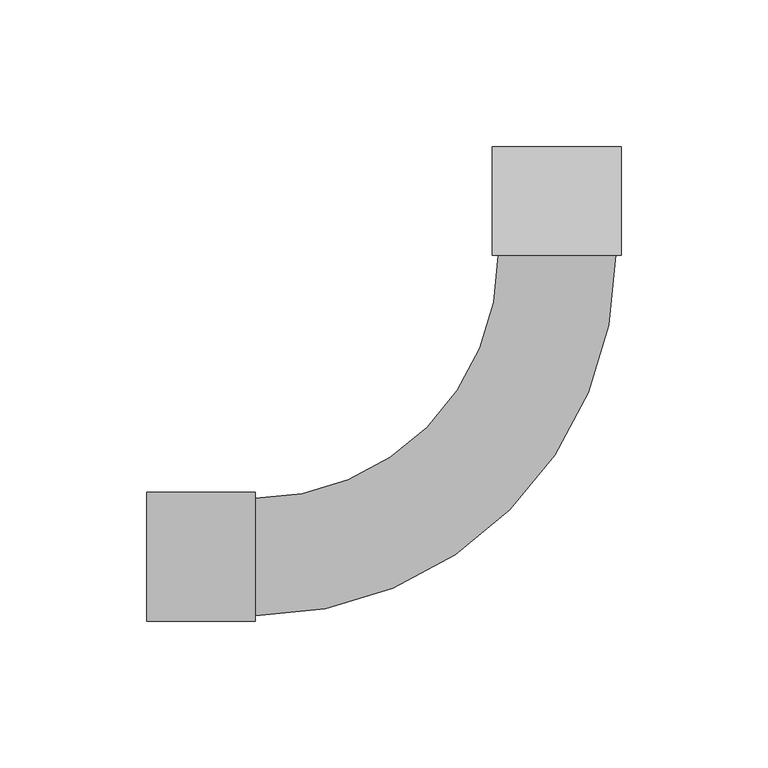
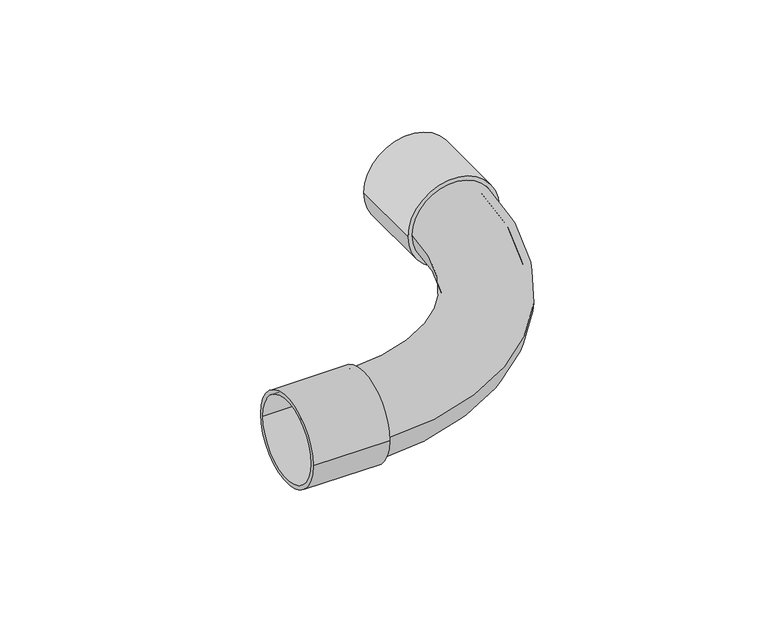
"""IFC4 building model written with IfcOpenShell, lengths in millimetres: cable carrier fitting geometry, КНС_ПоворотНа90ГрадусовТрубаТруба_IP40_DKC : Коробка."""

from ifc_helpers import new_model, si_unit, point, frame, origin, origin_2d, place, context, project, spatial, circle_curve, ellipse_curve, trimmed, segment, composite_curve, outline, extrude, source, transform, mapped, element, save
from ifc_brep_helpers import plane_surface, revolved_surface, advanced_brep


def cable_carrier_fitting_32bc2b01(model_context):
    return source(origin(), model_context, "Body", "SolidModel", [
        advanced_brep(
        [(-103.0, -20.0, 0.0), (-103.0, 20.0, 0.0), (-103.0, -16.5, 0.0), (-103.0, 16.5, 0.0), (20.0, 103.0, 0.0), (-20.0, 103.0, 0.0), (16.5, 103.0, 0.0), (-16.5, 103.0, 0.0)],
        [
            (0, 1, circle_curve(frame((-103.0, 0.0, 0.0), z_axis=(-1.0, 0.0, 0.0), x_axis=(0.0, 1.0, 0.0)), 20.0)),
            (1, 0, circle_curve(frame((-103.0, 0.0, 0.0), z_axis=(-1.0, 0.0, 0.0), x_axis=(0.0, 1.0, 0.0)), 20.0)),
            (2, 3, circle_curve(frame((-103.0, 0.0, 0.0), z_axis=(1.0, 0.0, 0.0), x_axis=(0.0, 1.0, 0.0)), 16.5)),
            (3, 2, circle_curve(frame((-103.0, 0.0, 0.0), z_axis=(1.0, 0.0, 0.0), x_axis=(0.0, 1.0, 0.0)), 16.5)),
            (4, 5, circle_curve(frame((0.0, 103.0, 0.0), z_axis=(0.0, 1.0, 0.0), x_axis=(-1.0, 0.0, 0.0)), 20.0)),
            (5, 4, circle_curve(frame((0.0, 103.0, 0.0), z_axis=(0.0, 1.0, 0.0), x_axis=(-1.0, 0.0, 0.0)), 20.0)),
            (6, 7, circle_curve(frame((0.0, 103.0, 0.0), z_axis=(0.0, -1.0, 0.0), x_axis=(-1.0, 0.0, 0.0)), 16.5)),
            (7, 6, circle_curve(frame((0.0, 103.0, 0.0), z_axis=(0.0, -1.0, 0.0), x_axis=(-1.0, 0.0, 0.0)), 16.5)),
            (5, 1, circle_curve(frame((-103.0, 103.0, 0.0), z_axis=(0.0, 0.0, -1.0), x_axis=(0.0, -1.0, 0.0)), 83.0)),
            (0, 4, circle_curve(frame((-103.0, 103.0, 0.0), z_axis=(0.0, 0.0, 1.0), x_axis=(0.0, -1.0, 0.0)), 123.0)),
            (7, 3, circle_curve(frame((-103.0, 103.0, 0.0), z_axis=(0.0, 0.0, -1.0), x_axis=(0.0, -1.0, 0.0)), 86.5)),
            (2, 6, circle_curve(frame((-103.0, 103.0, 0.0), z_axis=(0.0, 0.0, 1.0), x_axis=(0.0, -1.0, 0.0)), 119.5)),
        ],
        [
            plane_surface(frame((-103.0, 0.0, 0.0), z_axis=(-1.0, 0.0, 0.0), x_axis=(0.0, 0.0, 1.0))),
            plane_surface(frame((0.0, 103.0, 0.0), z_axis=(0.0, 1.0, 0.0), x_axis=(0.0, 0.0, 1.0))),
            revolved_surface(trimmed(ellipse_curve(frame((-103.0, 0.0, 0.0), z_axis=(-1.0, 0.0, 0.0), x_axis=(0.0, 1.0, 0.0)), 20.0, 20.0), [point((-103.0, -20.0, 0.0))], [point((-103.0, 20.0, 0.0))], True, "CARTESIAN"), (-103.0, 103.0, 0.0), (0.0, 0.0, 1.0)),
            revolved_surface(trimmed(ellipse_curve(frame((-103.0, 0.0, 0.0), z_axis=(-1.0, 0.0, 0.0), x_axis=(0.0, 1.0, 0.0)), 20.0, 20.0), [point((-103.0, 20.0, 0.0))], [point((-103.0, -20.0, 0.0))], True, "CARTESIAN"), (-103.0, 103.0, 0.0), (0.0, 0.0, 1.0)),
            revolved_surface(trimmed(ellipse_curve(frame((-103.0, 0.0, 0.0), z_axis=(1.0, 0.0, 0.0), x_axis=(0.0, 1.0, 0.0)), 16.5, 16.5), [point((-103.0, -16.5, 0.0))], [point((-103.0, 16.5, 0.0))], True, "CARTESIAN"), (-103.0, 103.0, 0.0), (0.0, 0.0, 1.0)),
            revolved_surface(trimmed(ellipse_curve(frame((-103.0, 0.0, 0.0), z_axis=(1.0, 0.0, 0.0), x_axis=(0.0, 1.0, 0.0)), 16.5, 16.5), [point((-103.0, 16.5, 0.0))], [point((-103.0, -16.5, 0.0))], True, "CARTESIAN"), (-103.0, 103.0, 0.0), (0.0, 0.0, 1.0)),
        ],
        [
            (0, [[1, 2], [3, 4]]),
            (1, [[5, 6], [7, 8]]),
            (2, [[9, -1, 10, -6]]),
            (3, [[-10, -2, -9, -5]]),
            (4, [[11, -3, 12, -8]]),
            (5, [[-12, -4, -11, -7]]),
        ],
    ),
        extrude(outline(composite_curve([segment(trimmed(circle_curve(origin_2d(), 22.0), [point((0.0, 22.0))], [point((0.0, -22.0))], False, "CARTESIAN"), True, "CONTINUOUS"), segment(trimmed(circle_curve(origin_2d(), 22.0), [point((0.0, -22.0))], [point((0.0, 22.0))], False, "CARTESIAN"), True, "CONTINUOUS")], self_intersect=False), holes=[composite_curve([segment(trimmed(circle_curve(origin_2d(), 20.0), [point((0.0, 20.0))], [point((0.0, -20.0))], True, "CARTESIAN"), True, "CONTINUOUS"), segment(trimmed(circle_curve(origin_2d(), 20.0), [point((0.0, -20.0))], [point((0.0, 20.0))], True, "CARTESIAN"), True, "CONTINUOUS")], self_intersect=False)]), frame((0.0, 103.0, 0.0), z_axis=(0.0, 1.0, 0.0), x_axis=(0.0, 0.0, 1.0)), (0.0, 0.0, 1.0), 37.0),
        extrude(outline(composite_curve([segment(trimmed(circle_curve(origin_2d(), 22.0), [point((-22.0, 0.0))], [point((22.0, 0.0))], False, "CARTESIAN"), True, "CONTINUOUS"), segment(trimmed(circle_curve(origin_2d(), 22.0), [point((22.0, 0.0))], [point((-22.0, 0.0))], False, "CARTESIAN"), True, "CONTINUOUS")], self_intersect=False), holes=[composite_curve([segment(trimmed(circle_curve(origin_2d(), 20.0), [point((-20.0, 0.0))], [point((20.0, 0.0))], True, "CARTESIAN"), True, "CONTINUOUS"), segment(trimmed(circle_curve(origin_2d(), 20.0), [point((20.0, 0.0))], [point((-20.0, 0.0))], True, "CARTESIAN"), True, "CONTINUOUS")], self_intersect=False)]), frame((-140.0, 0.0, 0.0), z_axis=(1.0, 0.0, 0.0), x_axis=(0.0, 1.0, 0.0)), (0.0, 0.0, 1.0), 37.0),
    ])


if __name__ == "__main__":
    model = new_model("IFC4")
    model_context = context("Model", 3, world=origin())
    ifc_project = project(units=[si_unit("LENGTHUNIT", "METRE", prefix="MILLI")], contexts=[model_context])
    site = spatial("IfcSite", under=ifc_project)
    building = spatial("IfcBuilding", under=site)
    placement = place(None, origin())
    cable_carrier_fitting_shape = cable_carrier_fitting_32bc2b01(model_context)
    element("IfcCableCarrierFitting", 1, ObjectType="КНС_ПоворотНа90ГрадусовТрубаТруба_IP40_DKC : Коробка", at=placement, inside=building, context=model_context, shape_type="MappedRepresentation", body=[
        mapped(cable_carrier_fitting_shape, transform((0.0, 0.0, 0.0), x_axis=(1.0, 0.0, 0.0), y_axis=(0.0, 1.0, 0.0), z_axis=(0.0, 0.0, 1.0))),
    ])
    save(model, "model.ifc")
